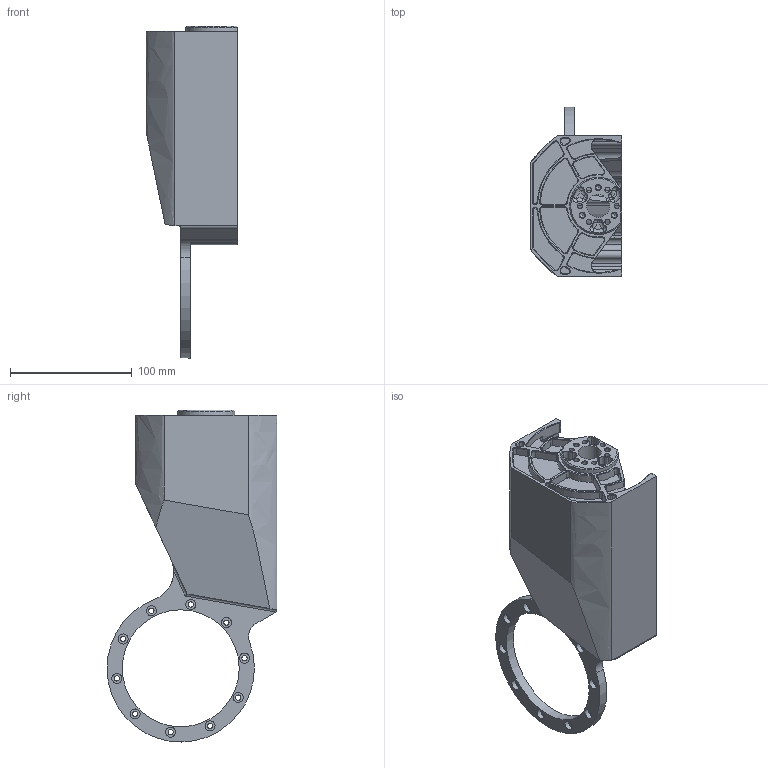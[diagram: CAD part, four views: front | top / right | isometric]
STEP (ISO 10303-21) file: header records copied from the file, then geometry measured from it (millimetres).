
FILE_DESCRIPTION(/* description */ ('STEP AP242 Edition 2','CAx-IF Rec.Pracs.---Representation and Presentation of Product Manufacturing Information (PMI)---4.0---2014-10-13','CAx-IF Rec.Pracs.---3D Tessellated Geometry---0.4---2014-09-14','2;1','CAx-IF Rec.Pracs.---User Defined Attributes---1.5---2016-08-15'),/* implementation_level */ '2;1');
FILE_NAME(/* name */ 'Assy_ForMFG - KD-D-301L_L_Femur_Lower_Drive',/* time_stamp */ '2026-05-15T19:56:35Z',/* author */ (''),/* organization */ (''),/* preprocessor_version */ 'ST-DEVELOPER v20',/* originating_system */ 'ONSHAPE BY PTC INC, 1.215',/* authorisation */ ' ');
FILE_SCHEMA (('AP242_MANAGED_MODEL_BASED_3D_ENGINEERING_MIM_LF { 1 0 10303 442 3 1 4 }'));
Length unit declared in the file: metre
Products named in the file (1): KD-D-301L_L_Femur_Lower_Drive
Bounding box: 75.5 x 139.5 x 272.49 mm (x, y, z)
Volume: 223661.1 mm3; surface area: 136932.6 mm2
Topology: 1 solids, 1 shells, 509 faces, 1308 edges, 804 vertices
Faces by surface type: cylinder 224, plane 128, cone 76, bspline 45, torus 19, sphere 17
Full cylindrical faces by diameter (mm): 2.5 x4, 3 x2, 3.3 x4, 4 x3, 4.3 x16, 8.25 x10, 18.86 x1, 96 x1
Entity records: 17603 total; most frequent: CARTESIAN_POINT 5720, DIRECTION 2525, ORIENTED_EDGE 2386, EDGE_CURVE 1193, AXIS2_PLACEMENT_3D 1015, VERTEX_POINT 780, FACE_BOUND 639, EDGE_LOOP 626
